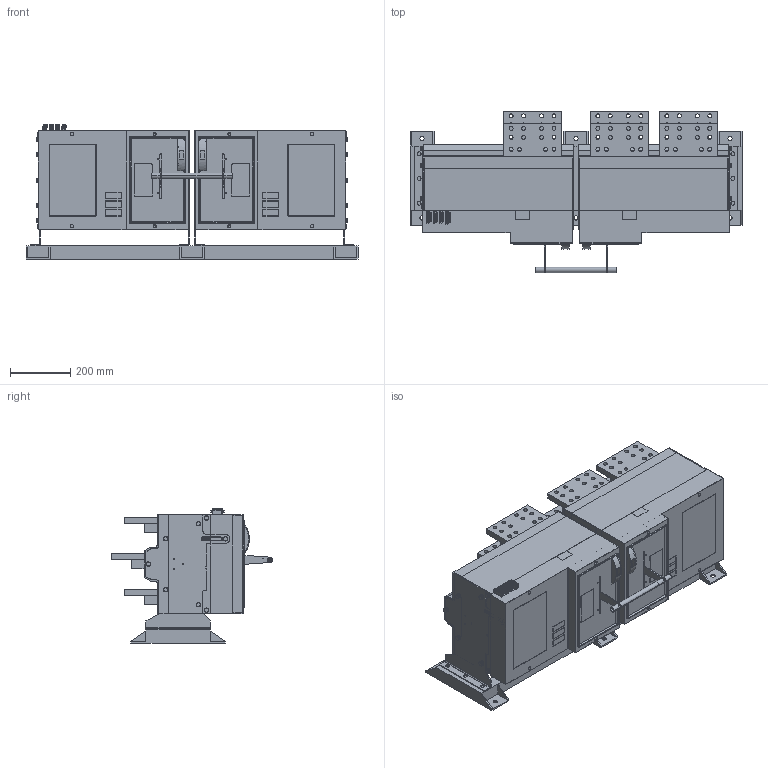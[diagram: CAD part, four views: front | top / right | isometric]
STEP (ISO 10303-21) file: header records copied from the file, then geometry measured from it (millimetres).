
FILE_DESCRIPTION (( 'STEP AP214' ), '1' );
FILE_NAME ('XKQE6000-6000A-3P.STEP', '2023-04-19T09:40:45', ( '' ), ( '' ), 'SwSTEP 2.0', 'SolidWorks 2020', '' );
FILE_SCHEMA (( 'AUTOMOTIVE_DESIGN' ));
Length unit declared in the file: millimetre
Products named in the file (17): ____.STEP.STEP^XKQE6000-6000A-4P(2)_XKQE6000-6000A-3P; 8XKQE-050-124_3_1.STEP.STEP^XKQE6000-6000A-4P(2)_XKQE6000-6000A-3P; ________.STEP.STEP^XKQE6000-6000A-4P(2)_XKQE6000-6000A-3P; 媼棒傷赽; __________.STEP.STEP^XKQE6000-6000A-4P(2)_XKQE6000-6000A-3P; 8XKQE-253-102_1_1.STEP.STEP^XKQE6000-6000A-4P(2)_XKQE6000-6000A-3P; 5XKQE-024-102_3_2.STEP.STEP^XKQE6000-6000A-4P(2)_XKQE6000-6000A-3P; 葩璃 ____.STEP.STEP^XKQE6000-6000A-3P; 8XKQE-003-100___.STEP.STEP^XKQE6000-6000A-4P(2)_XKQE6000-6000A-3P; XKQE6000-6000A-3P; ____-0.STEP.STEP^XKQE6000-6000A-4P(2)_XKQE6000-6000A-3P; ______ 2017.STEP.STEP^XKQE6000-6000A-4P(2)_XKQE6000-6000A-3P; 1_2_1.STEP.STEP^XKQE6000-6000A-4P(2)_XKQE6000-6000A-3P; 8XKQE-253-101_1_1.STEP.STEP^XKQE6000-6000A-4P(2)_XKQE6000-6000A-3P; M8-25鞠褒蹟邡; XKQE6000-6000A-4P(2)^XKQE6000-6000A-3P; 8XKQE-253-103
Assembly tree (43 placements, depth 3):
  XKQE6000-6000A-3P
    XKQE6000-6000A-4P(2)^XKQE6000-6000A-3P
      8XKQE-050-124_3_1.STEP.STEP^XKQE6000-6000A-4P(2)_XKQE6000-6000A-3P
      1_2_1.STEP.STEP^XKQE6000-6000A-4P(2)_XKQE6000-6000A-3P  x2
      ______ 2017.STEP.STEP^XKQE6000-6000A-4P(2)_XKQE6000-6000A-3P
      8XKQE-253-102_1_1.STEP.STEP^XKQE6000-6000A-4P(2)_XKQE6000-6000A-3P  x2
      8XKQE-003-100___.STEP.STEP^XKQE6000-6000A-4P(2)_XKQE6000-6000A-3P
      8XKQE-253-101_1_1.STEP.STEP^XKQE6000-6000A-4P(2)_XKQE6000-6000A-3P  x2
      5XKQE-024-102_3_2.STEP.STEP^XKQE6000-6000A-4P(2)_XKQE6000-6000A-3P  x2
      ____.STEP.STEP^XKQE6000-6000A-4P(2)_XKQE6000-6000A-3P  x6
      ____-0.STEP.STEP^XKQE6000-6000A-4P(2)_XKQE6000-6000A-3P
      __________.STEP.STEP^XKQE6000-6000A-4P(2)_XKQE6000-6000A-3P  x2
      ________.STEP.STEP^XKQE6000-6000A-4P(2)_XKQE6000-6000A-3P  x3
    M8-25鞠褒蹟邡  x14
    8XKQE-253-103
    葩璃 ____.STEP.STEP^XKQE6000-6000A-3P  x3
    媼棒傷赽
Bounding box: 1106 x 537 x 447 mm (x, y, z)
Volume: 99336071 mm3; surface area: 5497285.2 mm2
Topology: 115 solids, 224 shells, 7137 faces, 18553 edges, 12136 vertices
Faces by surface type: plane 4322, cylinder 1954, cone 495, bspline 271, torus 77, sphere 18
Entity records: 261344 total; most frequent: CARTESIAN_POINT 56136, ORIENTED_EDGE 32092, DIRECTION 28740, EDGE_CURVE 16052, LINE 10796, VECTOR 10796, VERTEX_POINT 10512, AXIS2_PLACEMENT_3D 8972
